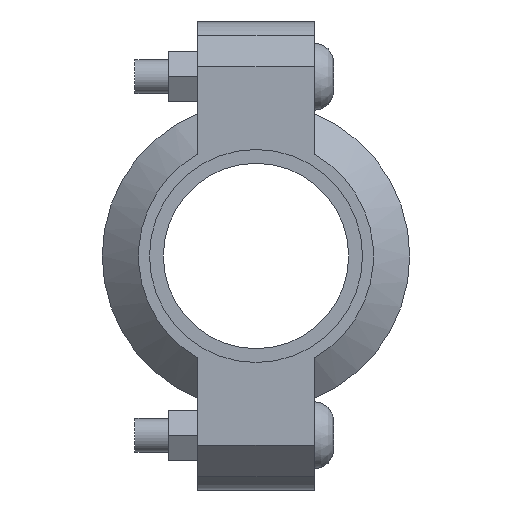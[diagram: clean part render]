
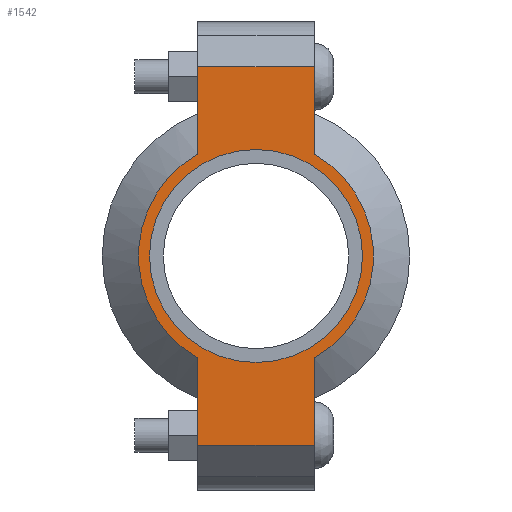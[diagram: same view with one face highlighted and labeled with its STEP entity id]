
A CAD part, left-side view. The second image highlights one B-rep face of the part: STEP entity #1542.
In plain terms, the highlighted planar face has unit normal (-1, 0, 0) as drawn and (0, 0, 1) by its records, which use the part's own axes.
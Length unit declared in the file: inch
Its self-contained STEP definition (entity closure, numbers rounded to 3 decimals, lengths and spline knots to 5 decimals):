
#166=LINE('',#2691,#259);
#174=LINE('',#2727,#267);
#181=LINE('',#2748,#274);
#190=LINE('',#2780,#283);
#191=LINE('',#2784,#284);
#192=LINE('',#2786,#285);
#259=VECTOR('',#2195,0.3937);
#267=VECTOR('',#2211,0.3937);
#274=VECTOR('',#2230,0.3937);
#283=VECTOR('',#2255,0.3937);
#284=VECTOR('',#2260,0.3937);
#285=VECTOR('',#2261,0.3937);
#341=FACE_BOUND('',#519,.T.);
#413=FACE_OUTER_BOUND('',#518,.T.);
#518=EDGE_LOOP('',(#1283,#1284,#1285,#1286,#1287,#1288,#1289,#1290));
#519=EDGE_LOOP('',(#1291));
#591=CIRCLE('',#1761,1.1875);
#617=CIRCLE('',#1820,1.31);
#618=CIRCLE('',#1821,1.31);
#683=VERTEX_POINT('',#2507);
#726=VERTEX_POINT('',#2688);
#727=VERTEX_POINT('',#2690);
#738=VERTEX_POINT('',#2722);
#739=VERTEX_POINT('',#2726);
#746=VERTEX_POINT('',#2745);
#747=VERTEX_POINT('',#2747);
#757=VERTEX_POINT('',#2783);
#758=VERTEX_POINT('',#2785);
#839=EDGE_CURVE('',#683,#683,#591,.T.);
#900=EDGE_CURVE('',#727,#726,#166,.T.);
#914=EDGE_CURVE('',#739,#738,#174,.T.);
#924=EDGE_CURVE('',#747,#746,#181,.T.);
#939=EDGE_CURVE('',#739,#726,#190,.T.);
#940=EDGE_CURVE('',#738,#747,#617,.T.);
#941=EDGE_CURVE('',#757,#746,#191,.T.);
#942=EDGE_CURVE('',#757,#758,#192,.T.);
#943=EDGE_CURVE('',#758,#727,#618,.T.);
#1283=ORIENTED_EDGE('',*,*,#939,.F.);
#1284=ORIENTED_EDGE('',*,*,#914,.T.);
#1285=ORIENTED_EDGE('',*,*,#940,.T.);
#1286=ORIENTED_EDGE('',*,*,#924,.T.);
#1287=ORIENTED_EDGE('',*,*,#941,.F.);
#1288=ORIENTED_EDGE('',*,*,#942,.T.);
#1289=ORIENTED_EDGE('',*,*,#943,.T.);
#1290=ORIENTED_EDGE('',*,*,#900,.T.);
#1291=ORIENTED_EDGE('',*,*,#839,.T.);
#1384=PLANE('',#1819);
#1542=ADVANCED_FACE('',(#413,#341),#1384,.T.);
#1761=AXIS2_PLACEMENT_3D('',#2509,#2071,#2072);
#1819=AXIS2_PLACEMENT_3D('',#2781,#2256,#2257);
#1820=AXIS2_PLACEMENT_3D('',#2782,#2258,#2259);
#1821=AXIS2_PLACEMENT_3D('',#2787,#2262,#2263);
#2071=DIRECTION('center_axis',(0.,0.,-1.));
#2072=DIRECTION('ref_axis',(-1.,0.,0.));
#2195=DIRECTION('',(-1.,0.,0.));
#2211=DIRECTION('',(1.,0.,0.));
#2230=DIRECTION('',(1.,0.,0.));
#2255=DIRECTION('',(0.,1.,0.));
#2256=DIRECTION('center_axis',(0.,0.,1.));
#2257=DIRECTION('ref_axis',(1.,0.,0.));
#2258=DIRECTION('center_axis',(0.,0.,1.));
#2259=DIRECTION('ref_axis',(-1.,0.,0.));
#2260=DIRECTION('',(0.,-1.,0.));
#2261=DIRECTION('',(-1.,0.,0.));
#2262=DIRECTION('center_axis',(0.,0.,1.));
#2263=DIRECTION('ref_axis',(-1.,0.,0.));
#2507=CARTESIAN_POINT('',(1.1875,0.,0.94));
#2509=CARTESIAN_POINT('Origin',(0.,0.,0.94));
#2688=CARTESIAN_POINT('',(-2.11,0.65,0.94));
#2690=CARTESIAN_POINT('',(-1.13737,0.65,0.94));
#2691=CARTESIAN_POINT('',(-2.61,0.65,0.94));
#2722=CARTESIAN_POINT('',(-1.13737,-0.65,0.94));
#2726=CARTESIAN_POINT('',(-2.11,-0.65,0.94));
#2727=CARTESIAN_POINT('',(2.61,-0.65,0.94));
#2745=CARTESIAN_POINT('',(2.11,-0.65,0.94));
#2747=CARTESIAN_POINT('',(1.13737,-0.65,0.94));
#2748=CARTESIAN_POINT('',(2.61,-0.65,0.94));
#2780=CARTESIAN_POINT('',(-2.11,0.325,0.94));
#2781=CARTESIAN_POINT('Origin',(0.,0.,0.94));
#2782=CARTESIAN_POINT('Origin',(0.,0.,0.94));
#2783=CARTESIAN_POINT('',(2.11,0.65,0.94));
#2784=CARTESIAN_POINT('',(2.11,-0.325,0.94));
#2785=CARTESIAN_POINT('',(1.13737,0.65,0.94));
#2786=CARTESIAN_POINT('',(-2.61,0.65,0.94));
#2787=CARTESIAN_POINT('Origin',(0.,0.,0.94));
